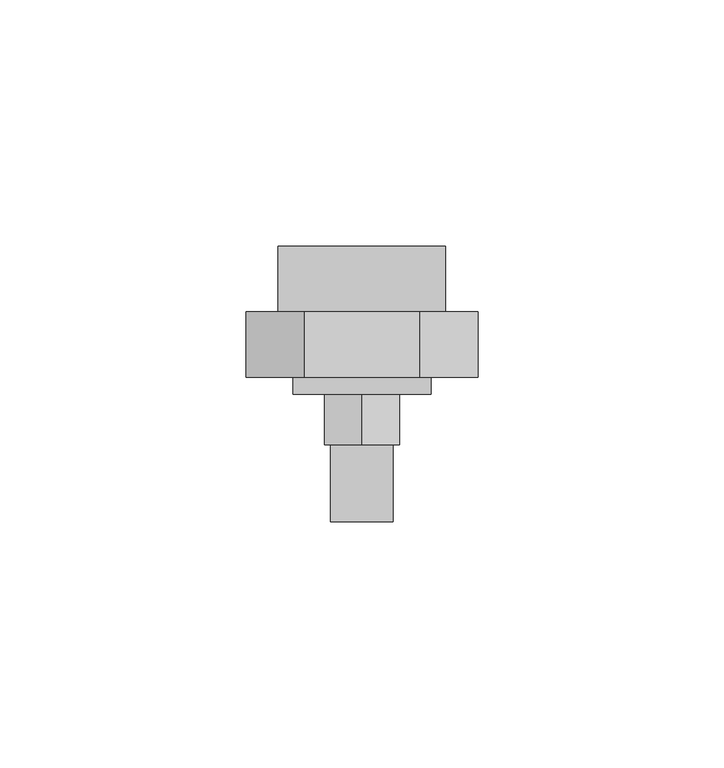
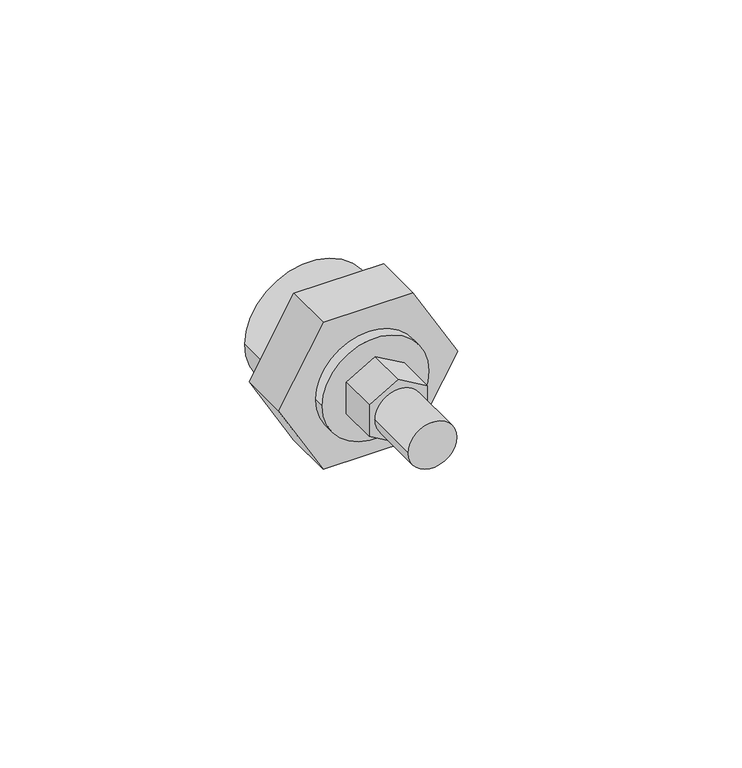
"""IFC4 building model written with IfcOpenShell, lengths in millimetres: pipe fitting geometry, EGB_VASEN_ PPR_Enlace desmontable rosca macho WXR103 : Enlace desmontable rosca macho WXR103."""

from ifc_helpers import new_model, si_unit, point, frame, origin, origin_2d, place, context, project, spatial, polyline, circle_curve, trimmed, segment, composite_curve, outline, extrude, source, transform, mapped, element, save


def pipe_fitting_7d75732b(model_context):
    return source(origin(), model_context, "Body", "SweptSolid", [
        extrude(outline(polyline([(-4.3994091, -7.62), (-8.7988181, 0.0), (-4.3994091, 7.62), (4.3994091, 7.62), (8.7988181, 0.0), (4.3994091, -7.62), (-4.3994091, -7.62)])), frame((0.0, -26.42125, 0.0), z_axis=(0.0, 1.0, 0.0), x_axis=(0.0, 0.0, 1.0)), (0.0, 0.0, 1.0), 10.3333333),
        extrude(outline(polyline([(0.0, 23.555891), (20.4, 11.7779455), (20.4, -11.7779455), (0.0, -23.555891), (-20.4, -11.7779455), (-20.4, 11.7779455), (0.0, 23.555891)])), frame((0.0, -12.7204167, 0.0), z_axis=(0.0, 1.0, 0.0), x_axis=(0.0, 0.0, 1.0)), (0.0, 0.0, 1.0), 13.3333333),
        extrude(outline(composite_curve([segment(trimmed(circle_curve(origin_2d(), 6.35), [point((0.0, -6.35))], [point((0.0, 6.35))], False, "CARTESIAN"), True, "CONTINUOUS"), segment(trimmed(circle_curve(origin_2d(), 6.35), [point((0.0, 6.35))], [point((0.0, -6.35))], False, "CARTESIAN"), True, "CONTINUOUS")], self_intersect=False)), frame((0.0, -42.05375, 0.0), z_axis=(0.0, 1.0, 0.0), x_axis=(0.0, 0.0, 1.0)), (0.0, 0.0, 1.0), 16.0),
        extrude(outline(composite_curve([segment(trimmed(circle_curve(origin_2d(), 14.01), [point((0.0, -14.01))], [point((0.0, 14.01))], False, "CARTESIAN"), True, "CONTINUOUS"), segment(trimmed(circle_curve(origin_2d(), 14.01), [point((0.0, 14.01))], [point((0.0, -14.01))], False, "CARTESIAN"), True, "CONTINUOUS")], self_intersect=False)), frame((0.0, -16.0879167, 0.0), z_axis=(0.0, 1.0, 0.0), x_axis=(0.0, 0.0, 1.0)), (0.0, 0.0, 1.0), 3.3675),
        extrude(outline(composite_curve([segment(trimmed(circle_curve(origin_2d(), 17.0), [point((0.0, -17.0))], [point((0.0, 17.0))], False, "CARTESIAN"), True, "CONTINUOUS"), segment(trimmed(circle_curve(origin_2d(), 17.0), [point((0.0, 17.0))], [point((0.0, -17.0))], False, "CARTESIAN"), True, "CONTINUOUS")], self_intersect=False), holes=[composite_curve([segment(trimmed(circle_curve(origin_2d(), 12.5), [point((0.0, -12.5))], [point((0.0, 12.5))], True, "CARTESIAN"), True, "CONTINUOUS"), segment(trimmed(circle_curve(origin_2d(), 12.5), [point((0.0, 12.5))], [point((0.0, -12.5))], True, "CARTESIAN"), True, "CONTINUOUS")], self_intersect=False)]), frame((0.0, 0.6129167, 0.0), z_axis=(0.0, 1.0, 0.0), x_axis=(0.0, 0.0, 1.0)), (0.0, 0.0, 1.0), 13.3333333),
    ])


if __name__ == "__main__":
    model = new_model("IFC4")
    model_context = context("Model", 3, world=origin())
    ifc_project = project(units=[si_unit("LENGTHUNIT", "METRE", prefix="MILLI")], contexts=[model_context])
    site = spatial("IfcSite", under=ifc_project)
    building = spatial("IfcBuilding", under=site)
    placement = place(None, origin())
    pipe_fitting_shape = pipe_fitting_7d75732b(model_context)
    element("IfcPipeFitting", 1, ObjectType="EGB_VASEN_ PPR_Enlace desmontable rosca macho WXR103 : Enlace desmontable rosca macho WXR103", at=placement, inside=building, context=model_context, shape_type="MappedRepresentation", body=[
        mapped(pipe_fitting_shape, transform((0.0, 0.0, 0.0), x_axis=(1.0, 0.0, 0.0), y_axis=(0.0, 1.0, 0.0), z_axis=(0.0, 0.0, 1.0))),
    ])
    save(model, "model.ifc")
